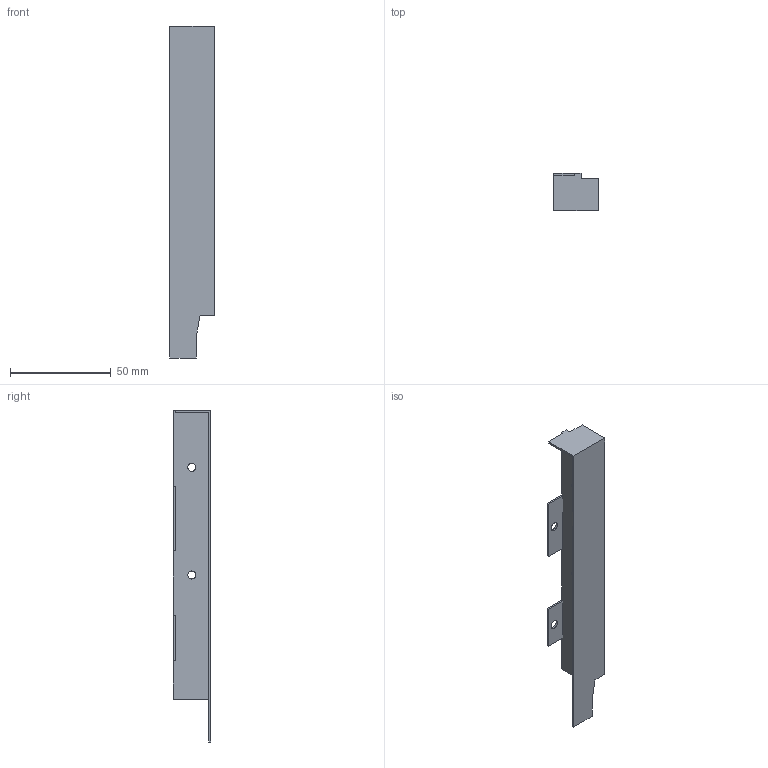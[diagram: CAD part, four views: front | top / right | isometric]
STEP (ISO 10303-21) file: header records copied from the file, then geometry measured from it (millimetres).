
FILE_DESCRIPTION (( 'STEP AP214' ), '1' );
FILE_NAME ('DWD-XP_Holzrueckwandadapter rechts H182 geschlossen.step', '2010-09-27T15:14:24', ( 'grass' ), ( '' ), 'SwSTEP 2.0', 'SolidWorks 2010', '' );
FILE_SCHEMA (( 'AUTOMOTIVE_DESIGN' ));
Length unit declared in the file: millimetre
Products named in the file (1): DWD-XP_Holzrueckwandadapter rechts H182 geschlossen
Bounding box: 22 x 18.5 x 165 mm (x, y, z)
Volume: 30728.6 mm3; surface area: 14370.9 mm2
Topology: 1 solids, 1 shells, 31 faces, 87 edges, 58 vertices
Faces by surface type: plane 23, cylinder 8
Entity records: 1047 total; most frequent: CARTESIAN_POINT 177, ORIENTED_EDGE 174, DIRECTION 167, EDGE_CURVE 87, LINE 71, VECTOR 71, VERTEX_POINT 58, AXIS2_PLACEMENT_3D 48
